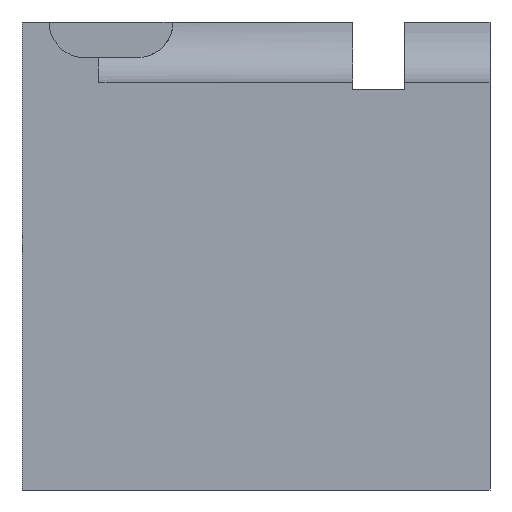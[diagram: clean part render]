
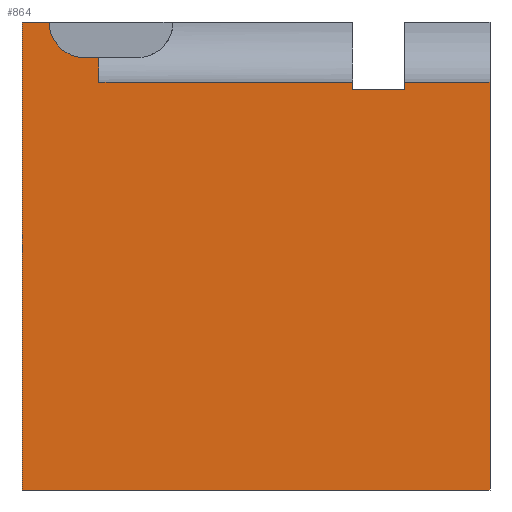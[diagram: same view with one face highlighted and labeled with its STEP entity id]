
A CAD part, left-side view. The second image highlights one B-rep face of the part: STEP entity #864.
In plain terms, the highlighted planar face has unit normal (-1, 0, 0).
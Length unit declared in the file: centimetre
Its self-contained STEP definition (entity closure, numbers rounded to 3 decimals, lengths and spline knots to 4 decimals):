
#43 = CARTESIAN_POINT ( 'NONE',  ( 0., 835.5046, 1000. ) ) ;
#47 = CARTESIAN_POINT ( 'NONE',  ( 0., 0., 1000. ) ) ;
#51 = VECTOR ( 'NONE', #1165, 100. ) ;
#53 = VECTOR ( 'NONE', #1559, 100. ) ;
#56 = EDGE_LOOP ( 'NONE', ( #1525, #367, #738, #202, #291, #1566, #209, #1185, #529, #445, #1379, #1056 ) ) ;
#59 = DIRECTION ( 'NONE',  ( 0., -1., 0. ) ) ;
#80 = VECTOR ( 'NONE', #1205, 100. ) ;
#84 = LINE ( 'NONE', #671, #51 ) ;
#104 = DIRECTION ( 'NONE',  ( -1., 0., 0. ) ) ;
#117 = EDGE_CURVE ( 'NONE', #1053, #1050, #1582, .T. ) ;
#139 = LINE ( 'NONE', #1474, #80 ) ;
#147 = DIRECTION ( 'NONE',  ( 0., 0., -1. ) ) ;
#158 = VERTEX_POINT ( 'NONE', #865 ) ;
#169 = EDGE_CURVE ( 'NONE', #666, #204, #1121, .T. ) ;
#202 = ORIENTED_EDGE ( 'NONE', *, *, #1246, .F. ) ;
#204 = VERTEX_POINT ( 'NONE', #505 ) ;
#209 = ORIENTED_EDGE ( 'NONE', *, *, #1570, .F. ) ;
#227 = CARTESIAN_POINT ( 'NONE',  ( 0., 181.9862, 855.4607 ) ) ;
#228 = EDGE_CURVE ( 'NONE', #859, #243, #1395, .T. ) ;
#234 = VECTOR ( 'NONE', #267, 100. ) ;
#243 = VERTEX_POINT ( 'NONE', #1365 ) ;
#247 = VECTOR ( 'NONE', #520, 100. ) ;
#253 = AXIS2_PLACEMENT_3D ( 'NONE', #1098, #104, #1588 ) ;
#267 = DIRECTION ( 'NONE',  ( 0., 0., 1. ) ) ;
#268 = DIRECTION ( 'NONE',  ( 1., 0., 0. ) ) ;
#291 = ORIENTED_EDGE ( 'NONE', *, *, #117, .T. ) ;
#295 = VERTEX_POINT ( 'NONE', #1247 ) ;
#297 = CARTESIAN_POINT ( 'NONE',  ( 0., 835.5046, 870.7921 ) ) ;
#302 = EDGE_CURVE ( 'NONE', #158, #859, #392, .T. ) ;
#310 = CARTESIAN_POINT ( 'NONE',  ( 0., 293.483, 870.7921 ) ) ;
#315 = VECTOR ( 'NONE', #971, 100. ) ;
#324 = CARTESIAN_POINT ( 'NONE',  ( 0., 1000., 1000. ) ) ;
#367 = ORIENTED_EDGE ( 'NONE', *, *, #302, .F. ) ;
#392 = LINE ( 'NONE', #877, #443 ) ;
#443 = VECTOR ( 'NONE', #884, 100. ) ;
#445 = ORIENTED_EDGE ( 'NONE', *, *, #702, .F. ) ;
#480 = CARTESIAN_POINT ( 'NONE',  ( 0., 1000., 1000. ) ) ;
#492 = VERTEX_POINT ( 'NONE', #310 ) ;
#505 = CARTESIAN_POINT ( 'NONE',  ( 0., 181.9862, 870.7921 ) ) ;
#514 = CARTESIAN_POINT ( 'NONE',  ( 0., 835.5046, 923.7311 ) ) ;
#520 = DIRECTION ( 'NONE',  ( 0., -1., 0. ) ) ;
#529 = ORIENTED_EDGE ( 'NONE', *, *, #169, .F. ) ;
#541 = DIRECTION ( 'NONE',  ( 0., 0., -1. ) ) ;
#616 = VECTOR ( 'NONE', #541, 100. ) ;
#634 = VERTEX_POINT ( 'NONE', #1452 ) ;
#661 = AXIS2_PLACEMENT_3D ( 'NONE', #1363, #268, #147 ) ;
#666 = VERTEX_POINT ( 'NONE', #227 ) ;
#671 = CARTESIAN_POINT ( 'NONE',  ( 0., 293.483, 855.4607 ) ) ;
#702 = EDGE_CURVE ( 'NONE', #908, #666, #1583, .T. ) ;
#706 = CARTESIAN_POINT ( 'NONE',  ( 0., 181.9862, 855.4607 ) ) ;
#717 = CARTESIAN_POINT ( 'NONE',  ( 0., 1000., 1000. ) ) ;
#738 = ORIENTED_EDGE ( 'NONE', *, *, #1071, .F. ) ;
#759 = LINE ( 'NONE', #1221, #247 ) ;
#802 = CARTESIAN_POINT ( 'NONE',  ( 0., 0., 0. ) ) ;
#821 = VECTOR ( 'NONE', #59, 100. ) ;
#859 = VERTEX_POINT ( 'NONE', #514 ) ;
#864 = ADVANCED_FACE ( 'NONE', ( #1111 ), #987, .F. ) ;
#865 = CARTESIAN_POINT ( 'NONE',  ( 0., 865.8039, 923.7311 ) ) ;
#877 = CARTESIAN_POINT ( 'NONE',  ( 0., 753.4637, 923.7311 ) ) ;
#884 = DIRECTION ( 'NONE',  ( 0., -1., 0. ) ) ;
#899 = LINE ( 'NONE', #297, #1222 ) ;
#905 = DIRECTION ( 'NONE',  ( 0., 1., 0. ) ) ;
#908 = VERTEX_POINT ( 'NONE', #1502 ) ;
#971 = DIRECTION ( 'NONE',  ( 0., 0., -1. ) ) ;
#986 = CARTESIAN_POINT ( 'NONE',  ( 0., 181.9862, 855.4607 ) ) ;
#987 = PLANE ( 'NONE',  #661 ) ;
#1034 = EDGE_CURVE ( 'NONE', #295, #204, #139, .T. ) ;
#1050 = VERTEX_POINT ( 'NONE', #1114 ) ;
#1053 = VERTEX_POINT ( 'NONE', #717 ) ;
#1056 = ORIENTED_EDGE ( 'NONE', *, *, #1224, .T. ) ;
#1071 = EDGE_CURVE ( 'NONE', #634, #158, #1540, .T. ) ;
#1098 = CARTESIAN_POINT ( 'NONE',  ( 0., 865.8039, 1000. ) ) ;
#1111 = FACE_OUTER_BOUND ( 'NONE', #56, .T. ) ;
#1114 = CARTESIAN_POINT ( 'NONE',  ( 0., 1000., 0. ) ) ;
#1121 = LINE ( 'NONE', #986, #234 ) ;
#1165 = DIRECTION ( 'NONE',  ( 0., 0., -1. ) ) ;
#1185 = ORIENTED_EDGE ( 'NONE', *, *, #1034, .T. ) ;
#1205 = DIRECTION ( 'NONE',  ( 0., 1., 0. ) ) ;
#1221 = CARTESIAN_POINT ( 'NONE',  ( 0., 1000., 0. ) ) ;
#1222 = VECTOR ( 'NONE', #905, 100. ) ;
#1224 = EDGE_CURVE ( 'NONE', #492, #243, #899, .T. ) ;
#1246 = EDGE_CURVE ( 'NONE', #1053, #634, #1426, .T. ) ;
#1247 = CARTESIAN_POINT ( 'NONE',  ( 0., 0., 870.7921 ) ) ;
#1303 = DIRECTION ( 'NONE',  ( 0., 0., -1. ) ) ;
#1305 = EDGE_CURVE ( 'NONE', #492, #908, #84, .T. ) ;
#1354 = VECTOR ( 'NONE', #1303, 100. ) ;
#1363 = CARTESIAN_POINT ( 'NONE',  ( 0., 1000., 1000. ) ) ;
#1365 = CARTESIAN_POINT ( 'NONE',  ( 0., 835.5046, 870.7921 ) ) ;
#1379 = ORIENTED_EDGE ( 'NONE', *, *, #1305, .F. ) ;
#1395 = LINE ( 'NONE', #43, #616 ) ;
#1410 = EDGE_CURVE ( 'NONE', #1050, #1475, #759, .T. ) ;
#1426 = LINE ( 'NONE', #324, #821 ) ;
#1452 = CARTESIAN_POINT ( 'NONE',  ( 0., 942.0728, 1000. ) ) ;
#1474 = CARTESIAN_POINT ( 'NONE',  ( 0., 835.5046, 870.7921 ) ) ;
#1475 = VERTEX_POINT ( 'NONE', #802 ) ;
#1502 = CARTESIAN_POINT ( 'NONE',  ( 0., 293.483, 855.4607 ) ) ;
#1517 = LINE ( 'NONE', #47, #1354 ) ;
#1525 = ORIENTED_EDGE ( 'NONE', *, *, #228, .F. ) ;
#1540 = CIRCLE ( 'NONE', #253, 76.2689 ) ;
#1559 = DIRECTION ( 'NONE',  ( 0., -1., 0. ) ) ;
#1566 = ORIENTED_EDGE ( 'NONE', *, *, #1410, .T. ) ;
#1570 = EDGE_CURVE ( 'NONE', #295, #1475, #1517, .T. ) ;
#1582 = LINE ( 'NONE', #480, #315 ) ;
#1583 = LINE ( 'NONE', #706, #53 ) ;
#1588 = DIRECTION ( 'NONE',  ( 0., 0., -1. ) ) ;
